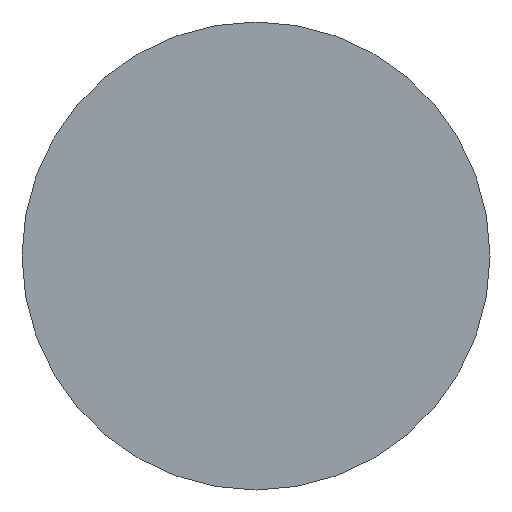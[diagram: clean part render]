
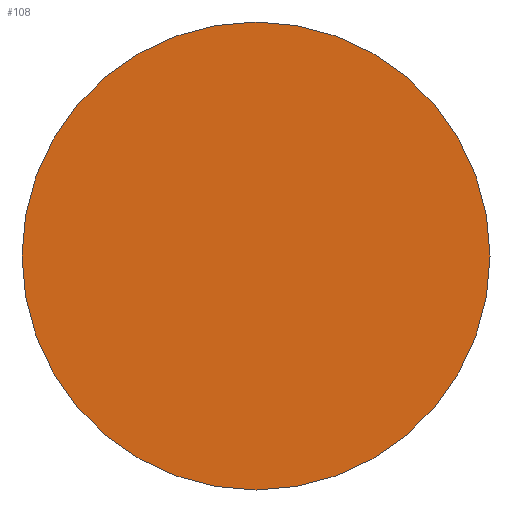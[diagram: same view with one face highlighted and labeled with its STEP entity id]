
A CAD part, front view. The second image highlights one B-rep face of the part: STEP entity #108.
In plain terms, the highlighted planar face has unit normal (0, -1, 0).
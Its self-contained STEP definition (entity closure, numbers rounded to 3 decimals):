
#31 = CYLINDRICAL_SURFACE('',#32,7.);
#32 = AXIS2_PLACEMENT_3D('',#33,#34,#35);
#33 = CARTESIAN_POINT('',(12.,38.,52.));
#34 = DIRECTION('',(0.,1.,0.));
#35 = DIRECTION('',(0.,0.,1.));
#56 = VERTEX_POINT('',#57);
#57 = CARTESIAN_POINT('',(12.,38.,59.));
#77 = EDGE_CURVE('',#56,#56,#78,.T.);
#78 = SURFACE_CURVE('',#79,(#84,#91),.PCURVE_S1.);
#79 = CIRCLE('',#80,7.);
#80 = AXIS2_PLACEMENT_3D('',#81,#82,#83);
#81 = CARTESIAN_POINT('',(12.,38.,52.));
#82 = DIRECTION('',(0.,1.,0.));
#83 = DIRECTION('',(0.,0.,1.));
#84 = PCURVE('',#31,#85);
#85 = DEFINITIONAL_REPRESENTATION('',(#86),#90);
#86 = LINE('',#87,#88);
#87 = CARTESIAN_POINT('',(0.,0.));
#88 = VECTOR('',#89,1.);
#89 = DIRECTION('',(1.,0.));
#90 = ( GEOMETRIC_REPRESENTATION_CONTEXT(2) 
PARAMETRIC_REPRESENTATION_CONTEXT() REPRESENTATION_CONTEXT('2D SPACE',''
  ) );
#91 = PCURVE('',#92,#97);
#92 = PLANE('',#93);
#93 = AXIS2_PLACEMENT_3D('',#94,#95,#96);
#94 = CARTESIAN_POINT('',(12.,38.,52.));
#95 = DIRECTION('',(0.,1.,0.));
#96 = DIRECTION('',(0.,0.,1.));
#97 = DEFINITIONAL_REPRESENTATION('',(#98),#102);
#98 = CIRCLE('',#99,7.);
#99 = AXIS2_PLACEMENT_2D('',#100,#101);
#100 = CARTESIAN_POINT('',(0.,0.));
#101 = DIRECTION('',(1.,0.));
#102 = ( GEOMETRIC_REPRESENTATION_CONTEXT(2) 
PARAMETRIC_REPRESENTATION_CONTEXT() REPRESENTATION_CONTEXT('2D SPACE',''
  ) );
#108 = ADVANCED_FACE('',(#109),#92,.F.);
#109 = FACE_BOUND('',#110,.T.);
#110 = EDGE_LOOP('',(#111));
#111 = ORIENTED_EDGE('',*,*,#77,.F.);
